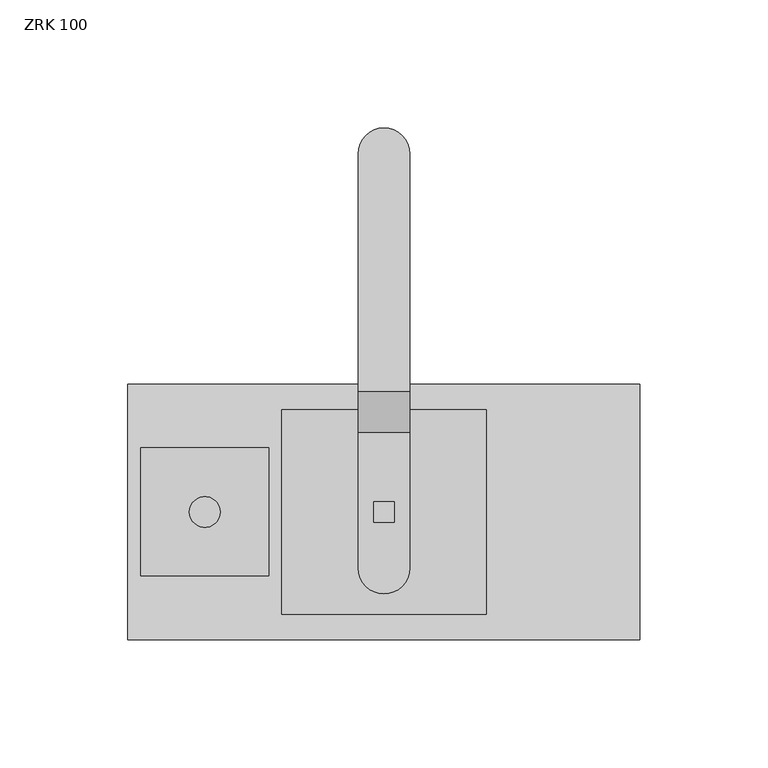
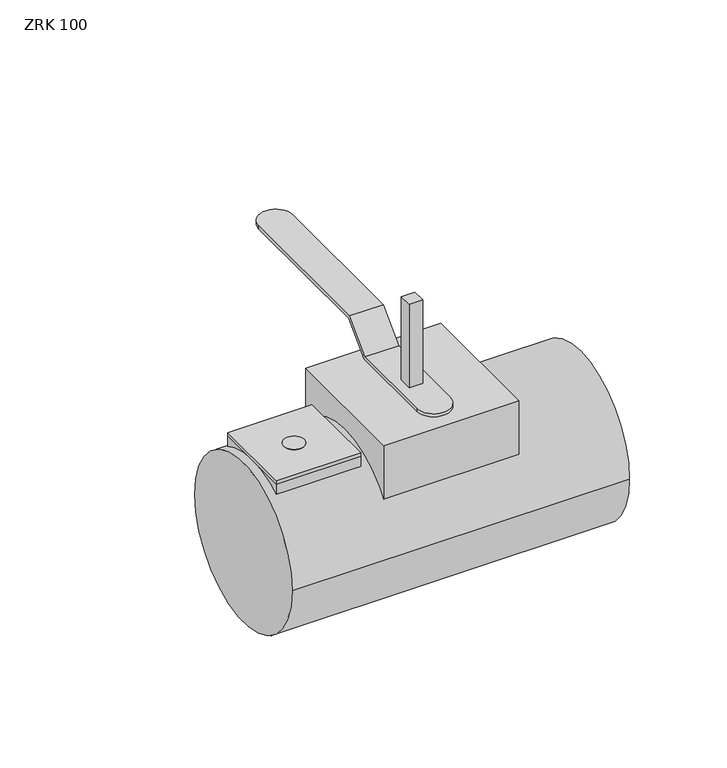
"""IFC4 building model written with IfcOpenShell, lengths in millimetres: damper geometry, KORF_Заслонка_Круглая_ZRK_Ручка : ZRK 100."""

from ifc_helpers import new_model, si_unit, point, frame, frame_2d, origin, origin_2d, place, context, project, spatial, polyline, circle_curve, trimmed, segment, composite_curve, outline, extrude, source, transform, mapped, element, save
from ifc_brep_helpers import plane_surface, cylinder_surface, revolved_surface, advanced_brep


def zrk_100_c9bb8a23(model_context):
    return source(origin(), model_context, "Body", "SolidModel", [
        extrude(outline(composite_curve([segment(trimmed(circle_curve(frame_2d((30.0, 0.0)), 6.0), [point((36.0, 0.0))], [point((24.0, 0.0))], False, "CARTESIAN"), True, "CONTINUOUS"), segment(trimmed(circle_curve(frame_2d((30.0, 0.0)), 6.0), [point((24.0, 0.0))], [point((36.0, 0.0))], False, "CARTESIAN"), True, "CONTINUOUS")], self_intersect=False)), frame((0.0, 0.0, 50.0), z_axis=(0.0, 0.0, 1.0), x_axis=(1.0, 0.0, 0.0)), (0.0, 0.0, 1.0), 2.0),
        extrude(outline(polyline([(55.0, 25.0), (55.0, -25.0), (5.0, -25.0), (5.0, 25.0), (55.0, 25.0)]), holes=[composite_curve([segment(trimmed(circle_curve(frame_2d((30.0, 0.0)), 6.0), [point((24.0, 0.0))], [point((36.0, 0.0))], True, "CARTESIAN"), True, "CONTINUOUS"), segment(trimmed(circle_curve(frame_2d((30.0, 0.0)), 6.0), [point((36.0, 0.0))], [point((24.0, 0.0))], True, "CARTESIAN"), True, "CONTINUOUS")], self_intersect=False)]), frame((0.0, 0.0, 50.0), z_axis=(0.0, 0.0, 1.0), x_axis=(1.0, 0.0, 0.0)), (0.0, 0.0, 1.0), 2.0),
        extrude(outline(composite_curve([segment(trimmed(circle_curve(origin_2d(), 50.0), [point((-50.0, 0.0))], [point((50.0, 0.0))], False, "CARTESIAN"), True, "CONTINUOUS"), segment(trimmed(circle_curve(origin_2d(), 50.0), [point((50.0, 0.0))], [point((-50.0, 0.0))], False, "CARTESIAN"), True, "CONTINUOUS")], self_intersect=False)), frame((0.0, 0.0, 0.0), z_axis=(1.0, 0.0, 0.0), x_axis=(0.0, 1.0, 0.0)), (0.0, 0.0, 1.0), 200.0),
        advanced_brep(
        [(55.0, 25.0, 50.0), (5.0, 25.0, 50.0), (5.0, 0.0, 50.0), (5.0, -25.0, 50.0), (55.0, -25.0, 50.0), (55.0, 0.0, 50.0), (55.0, 25.0, 43.3012702), (5.0, 25.0, 43.3012702), (5.0, -25.0, 43.3012702), (55.0, -25.0, 43.3012702)],
        [
            (0, 1),
            (1, 2),
            (2, 3),
            (3, 4),
            (4, 5),
            (5, 0),
            (0, 6),
            (6, 7),
            (7, 1),
            (7, 2, circle_curve(frame((5.0, 0.0, 0.0), z_axis=(1.0, 0.0, 0.0), x_axis=(0.0, 0.0, -1.0)), 50.0)),
            (2, 8, circle_curve(frame((5.0, 0.0, 0.0), z_axis=(1.0, 0.0, 0.0), x_axis=(0.0, 0.0, -1.0)), 50.0)),
            (8, 3),
            (8, 9),
            (9, 4),
            (9, 5, circle_curve(frame((55.0, 0.0, 0.0), z_axis=(-1.0, 0.0, 0.0), x_axis=(0.0, 0.0, -1.0)), 50.0)),
            (5, 6, circle_curve(frame((55.0, 0.0, 0.0), z_axis=(-1.0, 0.0, 0.0), x_axis=(0.0, 0.0, -1.0)), 50.0)),
        ],
        [
            plane_surface(frame((5.0, 25.0, 50.0), z_axis=(0.0, 0.0, 1.0), x_axis=(-1.0, 0.0, 0.0))),
            plane_surface(frame((55.0, 25.0, 50.0), z_axis=(0.0, 1.0, 0.0), x_axis=(0.0, 0.0, -1.0))),
            plane_surface(frame((5.0, 25.0, 50.0), z_axis=(-1.0, 0.0, 0.0), x_axis=(0.0, 0.0, -1.0))),
            plane_surface(frame((5.0, -25.0, 50.0), z_axis=(0.0, -1.0, 0.0), x_axis=(0.0, 0.0, -1.0))),
            plane_surface(frame((55.0, -25.0, 50.0), z_axis=(1.0, 0.0, 0.0), x_axis=(0.0, 0.0, -1.0))),
            revolved_surface(polyline([(5.0, 0.0, -50.0), (55.0, 0.0, -50.0)]), (200.0, 0.0, 0.0), (-1.0, 0.0, 0.0)),
        ],
        [
            (0, [[1, 2, 3, 4, 5, 6]]),
            (1, [[-1, 7, 8, 9]]),
            (2, [[-2, -9, 10]]),
            (2, [[-3, 11, 12]]),
            (3, [[-4, -12, 13, 14]]),
            (4, [[-5, -14, 15]]),
            (4, [[-6, 16, -7]]),
            (5, [[-8, -16, -15, -13, -11, -10]]),
        ],
    ),
        extrude(outline(composite_curve([segment(polyline([(-4.0, 118.0), (4.0, 118.0), (4.0, 49.8397432)]), True, "CONTINUOUS"), segment(trimmed(circle_curve(origin_2d(), 50.0), [point((4.0, 49.8397432))], [point((-4.0, 49.8397432))], True, "CARTESIAN"), True, "CONTINUOUS"), segment(polyline([(-4.0, 49.8397432), (-4.0, 118.0)]), True, "CONTINUOUS")], self_intersect=False)), frame((96.0, 0.0, 0.0), z_axis=(1.0, 0.0, 0.0), x_axis=(0.0, 1.0, 0.0)), (0.0, 0.0, 1.0), 8.0),
        advanced_brep(
        [(90.0, 48.0, 80.0), (90.0, 32.0, 64.0), (90.0, -22.0, 64.0), (90.0, -22.0, 66.0), (90.0, 31.1715729, 66.0), (90.0, 47.1715729, 82.0), (90.0, 140.0, 82.0), (90.0, 140.0, 80.0), (110.0, 47.1715729, 82.0), (110.0, 31.1715729, 66.0), (110.0, -22.0, 66.0), (110.0, -22.0, 64.0), (110.0, 32.0, 64.0), (110.0, 48.0, 80.0), (110.0, 140.0, 80.0), (110.0, 140.0, 82.0), (100.0, 150.0, 80.0), (100.0, 150.0, 82.0), (100.0, -32.0, 66.0), (96.0, 4.0, 66.0), (104.0, 4.0, 66.0), (104.0, -4.0, 66.0), (96.0, -4.0, 66.0), (100.0, -32.0, 64.0), (104.0, 4.0, 64.0), (96.0, 4.0, 64.0), (96.0, -4.0, 64.0), (104.0, -4.0, 64.0)],
        [
            (0, 1),
            (1, 2),
            (2, 3),
            (3, 4),
            (4, 5),
            (5, 6),
            (6, 7),
            (7, 0),
            (8, 9),
            (9, 10),
            (10, 11),
            (11, 12),
            (12, 13),
            (13, 14),
            (14, 15),
            (15, 8),
            (13, 0),
            (7, 16, circle_curve(frame((100.0, 140.0, 80.0), z_axis=(0.0, 0.0, -1.0), x_axis=(1.0, 0.0, 0.0)), 10.0)),
            (16, 14, circle_curve(frame((100.0, 140.0, 80.0), z_axis=(0.0, 0.0, -1.0), x_axis=(1.0, 0.0, 0.0)), 10.0)),
            (5, 8),
            (15, 17, circle_curve(frame((100.0, 140.0, 82.0), z_axis=(0.0, 0.0, 1.0), x_axis=(1.0, 0.0, 0.0)), 10.0)),
            (17, 6, circle_curve(frame((100.0, 140.0, 82.0), z_axis=(0.0, 0.0, 1.0), x_axis=(1.0, 0.0, 0.0)), 10.0)),
            (4, 9),
            (3, 18, circle_curve(frame((100.0, -22.0, 66.0), z_axis=(0.0, 0.0, 1.0), x_axis=(1.0, 0.0, 0.0)), 10.0)),
            (18, 10, circle_curve(frame((100.0, -22.0, 66.0), z_axis=(0.0, 0.0, 1.0), x_axis=(1.0, 0.0, 0.0)), 10.0)),
            (19, 20),
            (20, 21),
            (21, 22),
            (22, 19),
            (1, 12),
            (11, 23, circle_curve(frame((100.0, -22.0, 64.0), z_axis=(0.0, 0.0, -1.0), x_axis=(1.0, 0.0, 0.0)), 10.0)),
            (23, 2, circle_curve(frame((100.0, -22.0, 64.0), z_axis=(0.0, 0.0, -1.0), x_axis=(1.0, 0.0, 0.0)), 10.0)),
            (24, 25),
            (25, 26),
            (26, 27),
            (27, 24),
            (24, 20),
            (19, 25),
            (22, 26),
            (21, 27),
        ],
        [
            plane_surface(frame((90.0, 150.0, 80.0), z_axis=(-1.0, 0.0, 0.0), x_axis=(0.0, -1.0, 0.0))),
            plane_surface(frame((110.0, 150.0, 80.0), z_axis=(1.0, 0.0, 0.0), x_axis=(0.0, 1.0, 0.0))),
            plane_surface(frame((110.0, 48.0, 80.0), z_axis=(0.0, 0.0, -1.0), x_axis=(-1.0, 0.0, 0.0))),
            plane_surface(frame((110.0, 150.0, 82.0), z_axis=(0.0, 0.0, 1.0), x_axis=(-1.0, 0.0, 0.0))),
            plane_surface(frame((110.0, 47.1715729, 82.0), z_axis=(0.0, -0.7071067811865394, 0.7071067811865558), x_axis=(-1.0, 0.0, 0.0))),
            plane_surface(frame((110.0, 31.1715729, 66.0), z_axis=(0.0, 0.0, 1.0), x_axis=(-1.0, 0.0, 0.0))),
            plane_surface(frame((110.0, -32.0, 64.0), z_axis=(0.0, 0.0, -1.0), x_axis=(-1.0, 0.0, 0.0))),
            plane_surface(frame((110.0, 32.0, 64.0), z_axis=(0.0, 0.7071067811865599, -0.7071067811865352), x_axis=(-1.0, 0.0, 0.0))),
            plane_surface(frame((104.0, 4.0, 80.0), z_axis=(0.0, -1.0, 0.0), x_axis=(0.0, 0.0, -1.0))),
            plane_surface(frame((96.0, 4.0, 80.0), z_axis=(1.0, 0.0, 0.0), x_axis=(0.0, 0.0, -1.0))),
            plane_surface(frame((96.0, -4.0, 80.0), z_axis=(0.0, 1.0, 0.0), x_axis=(0.0, 0.0, -1.0))),
            plane_surface(frame((104.0, -4.0, 80.0), z_axis=(-1.0, 0.0, 0.0), x_axis=(0.0, 0.0, -1.0))),
            cylinder_surface(frame((100.0, 140.0, 64.0), z_axis=(0.0, 0.0, -1.0), x_axis=(1.0, 0.0, 0.0)), 10.0),
            cylinder_surface(frame((100.0, -22.0, 0.0), z_axis=(0.0, 0.0, -1.0), x_axis=(1.0, 0.0, 0.0)), 10.0),
        ],
        [
            (0, [[1, 2, 3, 4, 5, 6, 7, 8]]),
            (1, [[9, 10, 11, 12, 13, 14, 15, 16]]),
            (2, [[17, -8, 18, 19, -14]]),
            (3, [[20, -16, 21, 22, -6]]),
            (4, [[-5, 23, -9, -20]]),
            (5, [[-23, -4, 24, 25, -10], [26, 27, 28, 29]]),
            (6, [[30, -12, 31, 32, -2], [33, 34, 35, 36]]),
            (7, [[-1, -17, -13, -30]]),
            (8, [[37, -26, 38, -33]]),
            (9, [[-38, -29, 39, -34]]),
            (10, [[-39, -28, 40, -35]]),
            (11, [[-37, -36, -40, -27]]),
            (12, [[-7, -22, -21, -15, -19, -18]]),
            (13, [[-3, -32, -31, -11, -25, -24]]),
        ],
    ),
        advanced_brep(
        [(140.0, 40.0, 64.0), (60.0, 40.0, 64.0), (60.0, -40.0, 64.0), (140.0, -40.0, 64.0), (96.0, 4.0, 64.0), (104.0, 4.0, 64.0), (104.0, -4.0, 64.0), (96.0, -4.0, 64.0), (140.0, 40.0, 30.0), (60.0, 40.0, 30.0), (60.0, -40.0, 30.0), (140.0, -40.0, 30.0), (104.0, 4.0, 49.8397432), (96.0, 4.0, 49.8397432), (96.0, -4.0, 49.8397432), (104.0, -4.0, 49.8397432)],
        [
            (0, 1),
            (1, 2),
            (2, 3),
            (3, 0),
            (4, 5),
            (5, 6),
            (6, 7),
            (7, 4),
            (0, 8),
            (8, 9),
            (9, 1),
            (9, 10, circle_curve(frame((60.0, 0.0, 0.0), z_axis=(1.0, 0.0, 0.0), x_axis=(0.0, 0.0, -1.0)), 50.0)),
            (10, 2),
            (10, 11),
            (11, 3),
            (11, 8, circle_curve(frame((140.0, 0.0, 0.0), z_axis=(-1.0, 0.0, 0.0), x_axis=(0.0, 0.0, -1.0)), 50.0)),
            (12, 13),
            (13, 14, circle_curve(frame((96.0, 0.0, 0.0), z_axis=(1.0, 0.0, 0.0), x_axis=(0.0, 0.0, -1.0)), 50.0)),
            (14, 15),
            (15, 12, circle_curve(frame((104.0, 0.0, 0.0), z_axis=(-1.0, 0.0, 0.0), x_axis=(0.0, 0.0, -1.0)), 50.0)),
            (12, 5),
            (4, 13),
            (7, 14),
            (6, 15),
        ],
        [
            plane_surface(frame((60.0, 40.0, 64.0), z_axis=(0.0, 0.0, 1.0), x_axis=(-1.0, 0.0, 0.0))),
            plane_surface(frame((140.0, 40.0, 64.0), z_axis=(0.0, 1.0, 0.0), x_axis=(0.0, 0.0, -1.0))),
            plane_surface(frame((60.0, 40.0, 64.0), z_axis=(-1.0, 0.0, 0.0), x_axis=(0.0, 0.0, -1.0))),
            plane_surface(frame((60.0, -40.0, 64.0), z_axis=(0.0, -1.0, 0.0), x_axis=(0.0, 0.0, -1.0))),
            plane_surface(frame((140.0, -40.0, 64.0), z_axis=(1.0, 0.0, 0.0), x_axis=(0.0, 0.0, -1.0))),
            revolved_surface(polyline([(60.0, 0.0, -50.0), (140.0, 0.0, -50.0)]), (200.0, 0.0, 0.0), (-1.0, 0.0, 0.0)),
            plane_surface(frame((104.0, 4.0, 80.0), z_axis=(0.0, -1.0, 0.0), x_axis=(0.0, 0.0, -1.0))),
            plane_surface(frame((96.0, 4.0, 80.0), z_axis=(1.0, 0.0, 0.0), x_axis=(0.0, 0.0, -1.0))),
            plane_surface(frame((96.0, -4.0, 80.0), z_axis=(0.0, 1.0, 0.0), x_axis=(0.0, 0.0, -1.0))),
            plane_surface(frame((104.0, -4.0, 80.0), z_axis=(-1.0, 0.0, 0.0), x_axis=(0.0, 0.0, -1.0))),
        ],
        [
            (0, [[1, 2, 3, 4], [5, 6, 7, 8]]),
            (1, [[-1, 9, 10, 11]]),
            (2, [[-2, -11, 12, 13]]),
            (3, [[-3, -13, 14, 15]]),
            (4, [[-4, -15, 16, -9]]),
            (5, [[-10, -16, -14, -12], [17, 18, 19, 20]]),
            (6, [[21, -5, 22, -17]]),
            (7, [[-22, -8, 23, -18]]),
            (8, [[-23, -7, 24, -19]]),
            (9, [[-21, -20, -24, -6]]),
        ],
    ),
    ])


if __name__ == "__main__":
    model = new_model("IFC4")
    model_context = context("Model", 3, world=origin())
    ifc_project = project(units=[si_unit("LENGTHUNIT", "METRE", prefix="MILLI")], contexts=[model_context])
    site = spatial("IfcSite", under=ifc_project)
    building = spatial("IfcBuilding", under=site)
    placement = place(None, origin())
    zrk_100_shape = zrk_100_c9bb8a23(model_context)
    element("IfcDamper", 1, ObjectType="KORF_Заслонка_Круглая_ZRK_Ручка : ZRK 100", at=placement, inside=building, context=model_context, shape_type="MappedRepresentation", body=[
        mapped(zrk_100_shape, transform((0.0, 0.0, 0.0), x_axis=(1.0, 0.0, 0.0), y_axis=(0.0, 1.0, 0.0), z_axis=(0.0, 0.0, 1.0))),
    ])
    save(model, "model.ifc")
